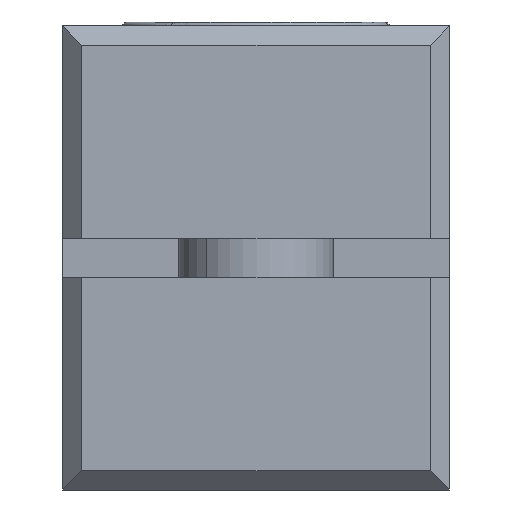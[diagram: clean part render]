
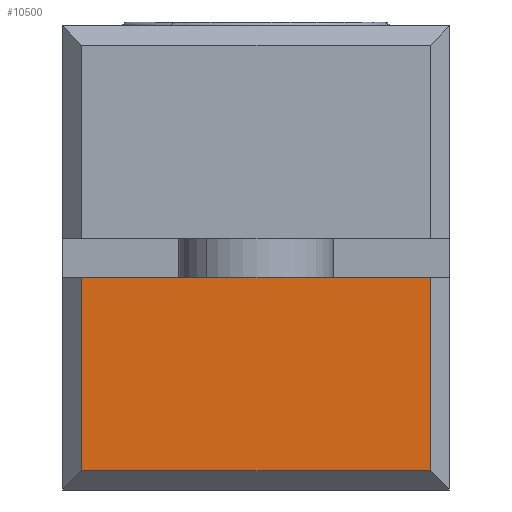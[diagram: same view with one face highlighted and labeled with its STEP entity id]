
A CAD part, left-side view. The second image highlights one B-rep face of the part: STEP entity #10500.
In plain terms, the highlighted planar face has unit normal (-1, 0, 0).
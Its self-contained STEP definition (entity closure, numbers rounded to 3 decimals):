
#44 = PLANE ( 'NONE',  #1898 ) ;
#201 = LINE ( 'NONE', #12008, #9869 ) ;
#260 = ORIENTED_EDGE ( 'NONE', *, *, #11537, .T. ) ;
#425 = EDGE_CURVE ( 'NONE', #1074, #8505, #2374, .T. ) ;
#991 = DIRECTION ( 'NONE',  ( 1., 0., 0. ) ) ;
#1074 = VERTEX_POINT ( 'NONE', #7541 ) ;
#1137 = EDGE_LOOP ( 'NONE', ( #5289, #260, #12187, #9345 ) ) ;
#1898 = AXIS2_PLACEMENT_3D ( 'NONE', #6634, #991, #7569 ) ;
#1914 = CARTESIAN_POINT ( 'NONE',  ( -76.932, 11.423, -0.5 ) ) ;
#2044 = LINE ( 'NONE', #9563, #11756 ) ;
#2374 = LINE ( 'NONE', #4711, #4893 ) ;
#3040 = CARTESIAN_POINT ( 'NONE',  ( -76.932, 20.423, -5.5 ) ) ;
#3075 = DIRECTION ( 'NONE',  ( 0., 0., 1. ) ) ;
#3213 = VERTEX_POINT ( 'NONE', #1914 ) ;
#4711 = CARTESIAN_POINT ( 'NONE',  ( -76.932, 15.923, -5.5 ) ) ;
#4780 = FACE_OUTER_BOUND ( 'NONE', #1137, .T. ) ;
#4893 = VECTOR ( 'NONE', #8649, 1000. ) ;
#5289 = ORIENTED_EDGE ( 'NONE', *, *, #425, .F. ) ;
#6634 = CARTESIAN_POINT ( 'NONE',  ( -76.932, 11.423, -0.5 ) ) ;
#6892 = VERTEX_POINT ( 'NONE', #9038 ) ;
#7541 = CARTESIAN_POINT ( 'NONE',  ( -76.932, 11.423, -5.5 ) ) ;
#7569 = DIRECTION ( 'NONE',  ( 0., 0., -1. ) ) ;
#8242 = DIRECTION ( 'NONE',  ( 0., 1., 0. ) ) ;
#8505 = VERTEX_POINT ( 'NONE', #3040 ) ;
#8649 = DIRECTION ( 'NONE',  ( 0., 1., 0. ) ) ;
#8701 = EDGE_CURVE ( 'NONE', #6892, #8505, #12224, .T. ) ;
#9038 = CARTESIAN_POINT ( 'NONE',  ( -76.932, 20.423, -0.5 ) ) ;
#9041 = CARTESIAN_POINT ( 'NONE',  ( -76.932, 20.423, -3.266 ) ) ;
#9345 = ORIENTED_EDGE ( 'NONE', *, *, #8701, .T. ) ;
#9563 = CARTESIAN_POINT ( 'NONE',  ( -76.932, 11.423, -3.266 ) ) ;
#9679 = VECTOR ( 'NONE', #11896, 1000. ) ;
#9869 = VECTOR ( 'NONE', #8242, 1000. ) ;
#10415 = EDGE_CURVE ( 'NONE', #3213, #6892, #201, .T. ) ;
#10500 = ADVANCED_FACE ( 'NONE', ( #4780 ), #44, .F. ) ;
#11537 = EDGE_CURVE ( 'NONE', #1074, #3213, #2044, .T. ) ;
#11756 = VECTOR ( 'NONE', #3075, 1000. ) ;
#11896 = DIRECTION ( 'NONE',  ( 0., 0., -1. ) ) ;
#12008 = CARTESIAN_POINT ( 'NONE',  ( -76.932, 15.923, -0.5 ) ) ;
#12187 = ORIENTED_EDGE ( 'NONE', *, *, #10415, .T. ) ;
#12224 = LINE ( 'NONE', #9041, #9679 ) ;
